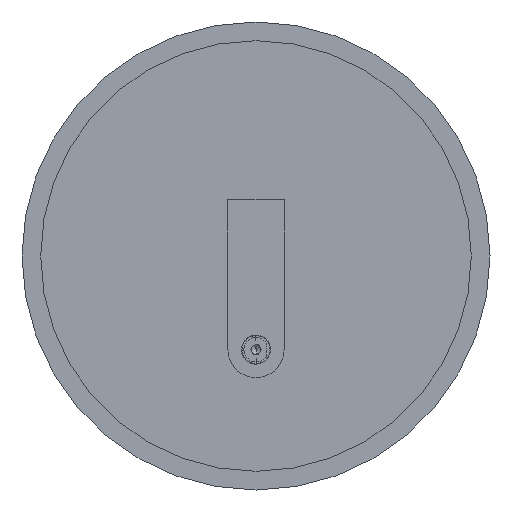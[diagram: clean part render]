
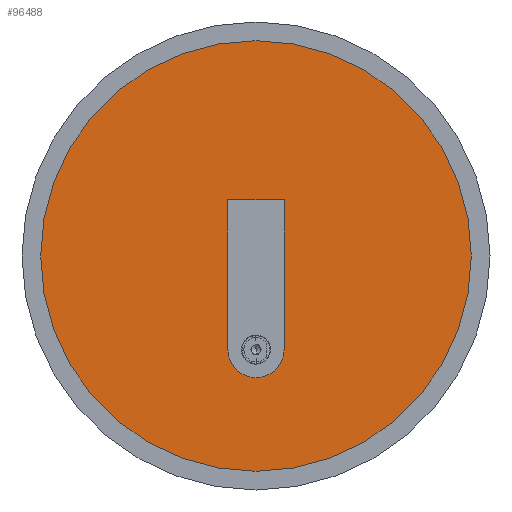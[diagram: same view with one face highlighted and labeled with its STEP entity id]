
A CAD part, front view. The second image highlights one B-rep face of the part: STEP entity #96488.
In plain terms, the highlighted planar face has unit normal (0, -1, 0).
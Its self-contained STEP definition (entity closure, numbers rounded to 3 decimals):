
#1352 = DIRECTION ( 'NONE',  ( 0., -1., 0. ) ) ;
#5988 = EDGE_CURVE ( 'NONE', #83713, #65907, #122670, .T. ) ;
#8848 = CARTESIAN_POINT ( 'NONE',  ( 0., -3., 0. ) ) ;
#11703 = EDGE_CURVE ( 'NONE', #113132, #83713, #116827, .T. ) ;
#15560 = CARTESIAN_POINT ( 'NONE',  ( 15., -3., -50. ) ) ;
#15777 = ORIENTED_EDGE ( 'NONE', *, *, #55462, .T. ) ;
#16405 = VECTOR ( 'NONE', #132673, 1000. ) ;
#19221 = DIRECTION ( 'NONE',  ( 0., 0., -1. ) ) ;
#25097 = VECTOR ( 'NONE', #126979, 1000. ) ;
#30128 = EDGE_CURVE ( 'NONE', #65907, #56632, #58097, .T. ) ;
#31778 = DIRECTION ( 'NONE',  ( 0., 1., 0. ) ) ;
#31957 = CARTESIAN_POINT ( 'NONE',  ( 15., -3., 30. ) ) ;
#32702 = EDGE_LOOP ( 'NONE', ( #67968, #98441, #52797, #56245 ) ) ;
#37819 = FACE_OUTER_BOUND ( 'NONE', #88778, .T. ) ;
#41629 = VERTEX_POINT ( 'NONE', #52345 ) ;
#49636 = DIRECTION ( 'NONE',  ( 0., -1., 0. ) ) ;
#52324 = EDGE_CURVE ( 'NONE', #87127, #41629, #115261, .T. ) ;
#52345 = CARTESIAN_POINT ( 'NONE',  ( 0., -3., -115. ) ) ;
#52797 = ORIENTED_EDGE ( 'NONE', *, *, #5988, .T. ) ;
#55462 = EDGE_CURVE ( 'NONE', #41629, #87127, #127073, .T. ) ;
#56245 = ORIENTED_EDGE ( 'NONE', *, *, #30128, .T. ) ;
#56632 = VERTEX_POINT ( 'NONE', #60622 ) ;
#58003 = CIRCLE ( 'NONE', #93717, 15. ) ;
#58097 = LINE ( 'NONE', #15560, #61294 ) ;
#60622 = CARTESIAN_POINT ( 'NONE',  ( 15., -3., -50. ) ) ;
#61294 = VECTOR ( 'NONE', #97887, 1000. ) ;
#62528 = CARTESIAN_POINT ( 'NONE',  ( 0., -3., 115. ) ) ;
#62966 = CARTESIAN_POINT ( 'NONE',  ( 0., -3., 0. ) ) ;
#65907 = VERTEX_POINT ( 'NONE', #31957 ) ;
#67968 = ORIENTED_EDGE ( 'NONE', *, *, #86078, .T. ) ;
#71131 = CARTESIAN_POINT ( 'NONE',  ( -15., -3., 30. ) ) ;
#71555 = CARTESIAN_POINT ( 'NONE',  ( -15., -3., -50. ) ) ;
#73380 = DIRECTION ( 'NONE',  ( 0., 0., -1. ) ) ;
#78484 = AXIS2_PLACEMENT_3D ( 'NONE', #62966, #1352, #73380 ) ;
#80896 = DIRECTION ( 'NONE',  ( 0., -1., 0. ) ) ;
#83337 = AXIS2_PLACEMENT_3D ( 'NONE', #8848, #80896, #19221 ) ;
#83713 = VERTEX_POINT ( 'NONE', #109614 ) ;
#86078 = EDGE_CURVE ( 'NONE', #56632, #113132, #58003, .T. ) ;
#87127 = VERTEX_POINT ( 'NONE', #62528 ) ;
#88778 = EDGE_LOOP ( 'NONE', ( #125110, #15777 ) ) ;
#93384 = CARTESIAN_POINT ( 'NONE',  ( 0., -3., -50. ) ) ;
#93717 = AXIS2_PLACEMENT_3D ( 'NONE', #93384, #31778, #103670 ) ;
#96488 = ADVANCED_FACE ( 'NONE', ( #123145, #37819 ), #101036, .T. ) ;
#97887 = DIRECTION ( 'NONE',  ( 0., 0., -1. ) ) ;
#98441 = ORIENTED_EDGE ( 'NONE', *, *, #11703, .T. ) ;
#101036 = PLANE ( 'NONE',  #83337 ) ;
#103670 = DIRECTION ( 'NONE',  ( 0., 0., -1. ) ) ;
#109614 = CARTESIAN_POINT ( 'NONE',  ( -15., -3., 30. ) ) ;
#111214 = CARTESIAN_POINT ( 'NONE',  ( 0., -3., 0. ) ) ;
#113132 = VERTEX_POINT ( 'NONE', #71555 ) ;
#113248 = AXIS2_PLACEMENT_3D ( 'NONE', #111214, #49636, #121586 ) ;
#115261 = CIRCLE ( 'NONE', #78484, 115. ) ;
#116582 = CARTESIAN_POINT ( 'NONE',  ( -15., -3., -50. ) ) ;
#116827 = LINE ( 'NONE', #116582, #25097 ) ;
#121586 = DIRECTION ( 'NONE',  ( 0., 0., -1. ) ) ;
#122670 = LINE ( 'NONE', #71131, #16405 ) ;
#123145 = FACE_BOUND ( 'NONE', #32702, .T. ) ;
#125110 = ORIENTED_EDGE ( 'NONE', *, *, #52324, .T. ) ;
#126979 = DIRECTION ( 'NONE',  ( 0., 0., 1. ) ) ;
#127073 = CIRCLE ( 'NONE', #113248, 115. ) ;
#132673 = DIRECTION ( 'NONE',  ( 1., 0., 0. ) ) ;
